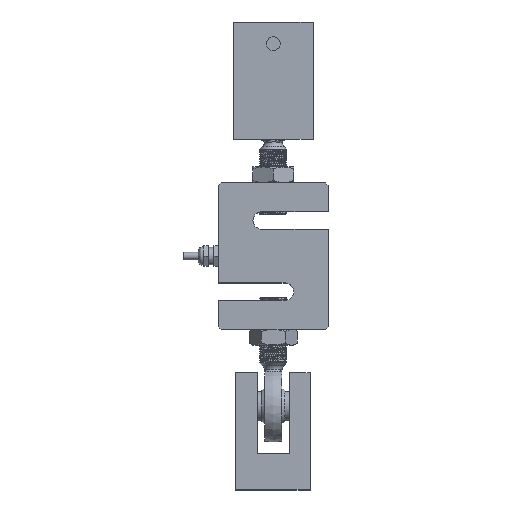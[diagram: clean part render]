
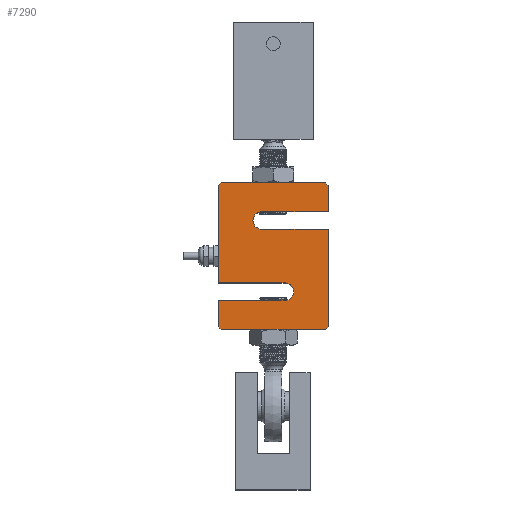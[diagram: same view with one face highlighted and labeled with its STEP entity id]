
A CAD part, top view. The second image highlights one B-rep face of the part: STEP entity #7290.
In plain terms, the highlighted planar face has unit normal (0, 0, 1) as drawn and (0, 1, 0) by its records, which use the part's own axes.
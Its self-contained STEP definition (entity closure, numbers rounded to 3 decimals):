
#803=PLANE('',#7842);
#956=FACE_OUTER_BOUND('',#1396,.T.);
#1396=EDGE_LOOP('',(#4965,#4966,#4967,#4968,#4969,#4970,#4971,#4972,#4973,
#4974,#4975,#4976,#4977,#4978,#4979,#4980));
#1864=LINE('',#13055,#2260);
#1865=LINE('',#13057,#2261);
#1866=LINE('',#13059,#2262);
#1867=LINE('',#13061,#2263);
#1868=LINE('',#13063,#2264);
#1869=LINE('',#13067,#2265);
#1870=LINE('',#13069,#2266);
#1871=LINE('',#13071,#2267);
#1872=LINE('',#13073,#2268);
#1873=LINE('',#13075,#2269);
#1874=LINE('',#13077,#2270);
#1875=LINE('',#13079,#2271);
#1876=LINE('',#13083,#2272);
#1877=LINE('',#13084,#2273);
#2260=VECTOR('',#8641,10.);
#2261=VECTOR('',#8642,10.);
#2262=VECTOR('',#8643,10.);
#2263=VECTOR('',#8644,10.);
#2264=VECTOR('',#8645,10.);
#2265=VECTOR('',#8648,10.);
#2266=VECTOR('',#8649,10.);
#2267=VECTOR('',#8650,10.);
#2268=VECTOR('',#8651,10.);
#2269=VECTOR('',#8652,10.);
#2270=VECTOR('',#8653,10.);
#2271=VECTOR('',#8654,10.);
#2272=VECTOR('',#8657,10.);
#2273=VECTOR('',#8658,10.);
#2589=CIRCLE('',#7843,6.);
#2590=CIRCLE('',#7844,6.);
#2887=VERTEX_POINT('',#13053);
#2888=VERTEX_POINT('',#13054);
#2889=VERTEX_POINT('',#13056);
#2890=VERTEX_POINT('',#13058);
#2891=VERTEX_POINT('',#13060);
#2892=VERTEX_POINT('',#13062);
#2893=VERTEX_POINT('',#13064);
#2894=VERTEX_POINT('',#13066);
#2895=VERTEX_POINT('',#13068);
#2896=VERTEX_POINT('',#13070);
#2897=VERTEX_POINT('',#13072);
#2898=VERTEX_POINT('',#13074);
#2899=VERTEX_POINT('',#13076);
#2900=VERTEX_POINT('',#13078);
#2901=VERTEX_POINT('',#13080);
#2902=VERTEX_POINT('',#13082);
#3705=EDGE_CURVE('',#2887,#2888,#1864,.T.);
#3706=EDGE_CURVE('',#2887,#2889,#1865,.T.);
#3707=EDGE_CURVE('',#2890,#2889,#1866,.T.);
#3708=EDGE_CURVE('',#2890,#2891,#1867,.T.);
#3709=EDGE_CURVE('',#2891,#2892,#1868,.T.);
#3710=EDGE_CURVE('',#2892,#2893,#2589,.T.);
#3711=EDGE_CURVE('',#2893,#2894,#1869,.T.);
#3712=EDGE_CURVE('',#2894,#2895,#1870,.T.);
#3713=EDGE_CURVE('',#2896,#2895,#1871,.T.);
#3714=EDGE_CURVE('',#2896,#2897,#1872,.T.);
#3715=EDGE_CURVE('',#2898,#2897,#1873,.T.);
#3716=EDGE_CURVE('',#2898,#2899,#1874,.T.);
#3717=EDGE_CURVE('',#2899,#2900,#1875,.T.);
#3718=EDGE_CURVE('',#2900,#2901,#2590,.T.);
#3719=EDGE_CURVE('',#2901,#2902,#1876,.T.);
#3720=EDGE_CURVE('',#2902,#2888,#1877,.T.);
#4965=ORIENTED_EDGE('',*,*,#3705,.F.);
#4966=ORIENTED_EDGE('',*,*,#3706,.T.);
#4967=ORIENTED_EDGE('',*,*,#3707,.F.);
#4968=ORIENTED_EDGE('',*,*,#3708,.T.);
#4969=ORIENTED_EDGE('',*,*,#3709,.T.);
#4970=ORIENTED_EDGE('',*,*,#3710,.T.);
#4971=ORIENTED_EDGE('',*,*,#3711,.T.);
#4972=ORIENTED_EDGE('',*,*,#3712,.T.);
#4973=ORIENTED_EDGE('',*,*,#3713,.F.);
#4974=ORIENTED_EDGE('',*,*,#3714,.T.);
#4975=ORIENTED_EDGE('',*,*,#3715,.F.);
#4976=ORIENTED_EDGE('',*,*,#3716,.T.);
#4977=ORIENTED_EDGE('',*,*,#3717,.T.);
#4978=ORIENTED_EDGE('',*,*,#3718,.T.);
#4979=ORIENTED_EDGE('',*,*,#3719,.T.);
#4980=ORIENTED_EDGE('',*,*,#3720,.T.);
#7290=ADVANCED_FACE('',(#956),#803,.T.);
#7842=AXIS2_PLACEMENT_3D('',#13052,#8639,#8640);
#7843=AXIS2_PLACEMENT_3D('',#13065,#8646,#8647);
#7844=AXIS2_PLACEMENT_3D('',#13081,#8655,#8656);
#8639=DIRECTION('center_axis',(0.,1.,0.));
#8640=DIRECTION('ref_axis',(1.,0.,0.));
#8641=DIRECTION('',(-0.707,0.,-0.707));
#8642=DIRECTION('',(1.,0.,0.));
#8643=DIRECTION('',(-0.707,0.,0.707));
#8644=DIRECTION('',(0.,0.,-1.));
#8645=DIRECTION('',(-1.,0.,0.));
#8646=DIRECTION('center_axis',(0.,-1.,0.));
#8647=DIRECTION('ref_axis',(0.,0.,-1.));
#8648=DIRECTION('',(1.,0.,0.));
#8649=DIRECTION('',(0.,0.,-1.));
#8650=DIRECTION('',(0.707,0.,0.707));
#8651=DIRECTION('',(-1.,0.,0.));
#8652=DIRECTION('',(0.707,0.,-0.707));
#8653=DIRECTION('',(0.,0.,1.));
#8654=DIRECTION('',(1.,0.,0.));
#8655=DIRECTION('center_axis',(0.,-1.,0.));
#8656=DIRECTION('ref_axis',(0.,0.,1.));
#8657=DIRECTION('',(-1.,0.,0.));
#8658=DIRECTION('',(0.,0.,1.));
#13052=CARTESIAN_POINT('Origin',(0.,12.7,0.));
#13053=CARTESIAN_POINT('',(-36.1,12.7,50.8));
#13054=CARTESIAN_POINT('',(-38.1,12.7,48.8));
#13055=CARTESIAN_POINT('',(-40.275,12.7,46.625));
#13056=CARTESIAN_POINT('',(36.1,12.7,50.8));
#13057=CARTESIAN_POINT('',(38.1,12.7,50.8));
#13058=CARTESIAN_POINT('',(38.1,12.7,48.8));
#13059=CARTESIAN_POINT('',(40.275,12.7,46.625));
#13060=CARTESIAN_POINT('',(38.1,12.7,-18.6));
#13061=CARTESIAN_POINT('',(38.1,12.7,-50.8));
#13062=CARTESIAN_POINT('',(-8.1,12.7,-18.6));
#13063=CARTESIAN_POINT('',(38.1,12.7,-18.6));
#13064=CARTESIAN_POINT('',(-8.1,12.7,-30.6));
#13065=CARTESIAN_POINT('Origin',(-8.1,12.7,-24.6));
#13066=CARTESIAN_POINT('',(38.1,12.7,-30.6));
#13067=CARTESIAN_POINT('',(38.1,12.7,-30.6));
#13068=CARTESIAN_POINT('',(38.1,12.7,-48.8));
#13069=CARTESIAN_POINT('',(38.1,12.7,-50.8));
#13070=CARTESIAN_POINT('',(36.1,12.7,-50.8));
#13071=CARTESIAN_POINT('',(40.275,12.7,-46.625));
#13072=CARTESIAN_POINT('',(-36.1,12.7,-50.8));
#13073=CARTESIAN_POINT('',(-38.1,12.7,-50.8));
#13074=CARTESIAN_POINT('',(-38.1,12.7,-48.8));
#13075=CARTESIAN_POINT('',(-40.275,12.7,-46.625));
#13076=CARTESIAN_POINT('',(-38.1,12.7,18.6));
#13077=CARTESIAN_POINT('',(-38.1,12.7,50.8));
#13078=CARTESIAN_POINT('',(8.1,12.7,18.6));
#13079=CARTESIAN_POINT('',(-38.1,12.7,18.6));
#13080=CARTESIAN_POINT('',(8.1,12.7,30.6));
#13081=CARTESIAN_POINT('Origin',(8.1,12.7,24.6));
#13082=CARTESIAN_POINT('',(-38.1,12.7,30.6));
#13083=CARTESIAN_POINT('',(-38.1,12.7,30.6));
#13084=CARTESIAN_POINT('',(-38.1,12.7,50.8));
